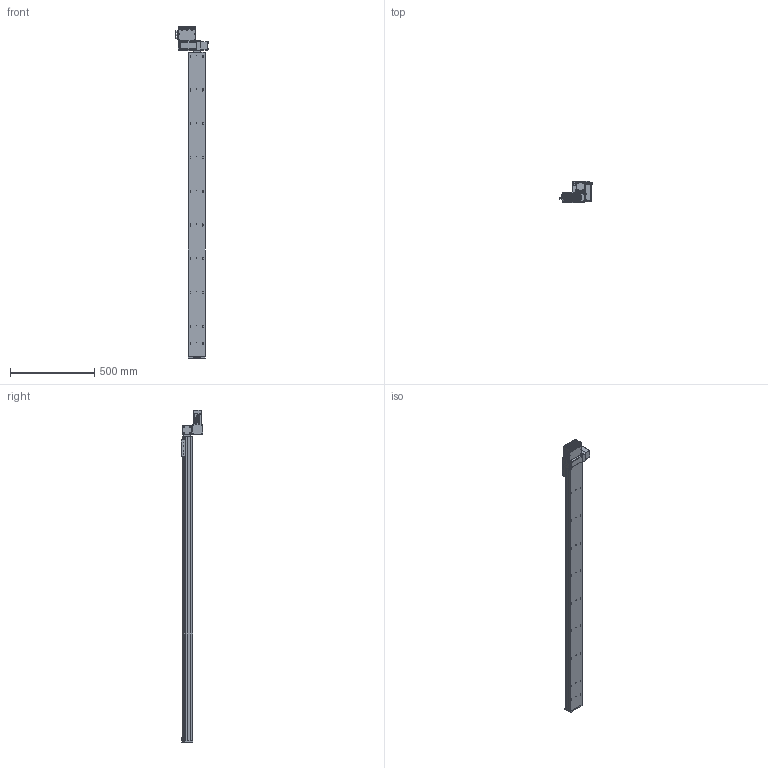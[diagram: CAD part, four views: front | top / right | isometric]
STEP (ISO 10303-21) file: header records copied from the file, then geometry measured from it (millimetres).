
FILE_DESCRIPTION (( 'STEP AP203' ), '1' );
FILE_NAME ('S10 TBH LH S1800.STEP', '2012-06-18T15:57:37', ( 'Conseil Régional Haute-Normandie' ), ( 'Conseil Régional Haute-Normandie' ), 'SwSTEP 2.0', 'SolidWorks 2010', '' );
FILE_SCHEMA (( 'CONFIG_CONTROL_DESIGN' ));
Length unit declared in the file: millimetre
Products named in the file (30): cache t皻e_Default; renvoi LH_Default; Plaque racord_Default; T_X2_00F4_X0_le contre le moteur_5; BU41 Carte Alimentation P05_3; Colonnette_3; Connecteur rond D10 3cts_5; Connecteur rond D12 4cts_5; T_X2_00F4_X0_le lat_X2_00E9_X0_rale_5; axe1800; Vis TF 3 torkx_1_1; S10 TBH LH S1800; cache t皻e axe_Default; Cvis M5 L30_Default; embout; palette tbn; plaque de bout s10_Default; vis M5 L12_Default; Vis M5 L16-2_Default_1; vis M5 L5_Default; Assem1_7; BU45 Carte d''axe A11_5; Moteur 60BLDC90A_3; Couvercle_3; T_X2_00F4_X0_le fond_3; Sub D 9cts 90_X2_00B_X0__3; Radiateur profil_X2_00E9_X0_ 100x25_3; Colonnette ronde_3; T_X2_00F4_X0_le Arri_X2_00E8_X0_re_5; axe 1800
Assembly tree (61 placements, depth 3):
  S10 TBH LH S1800
    cache t皻e_Default  x2
    embout
    vis M5 L12_Default  x4
    axe1800
      axe 1800
    Cvis M5 L30_Default  x2
    Assem1_7
      Moteur 60BLDC90A_3
      Vis TF 3 torkx_1_1  x21
      BU41 Carte Alimentation P05_3
      Connecteur rond D10 3cts_5  x2
      T_X2_00F4_X0_le lat_X2_00E9_X0_rale_5  x2
      Colonnette_3  x2
      BU45 Carte d''axe A11_5
      Couvercle_3
      T_X2_00F4_X0_le Arri_X2_00E8_X0_re_5
      T_X2_00F4_X0_le fond_3
      Colonnette ronde_3
      T_X2_00F4_X0_le contre le moteur_5
      Sub D 9cts 90_X2_00B_X0__3
      Connecteur rond D12 4cts_5
      Radiateur profil_X2_00E9_X0_ 100x25_3
    vis M5 L5_Default  x4
    palette tbn
    Vis M5 L16-2_Default_1  x2
    plaque de bout s10_Default
    cache t皻e axe_Default
    Plaque racord_Default
    renvoi LH_Default
Bounding box: 189.8 x 124.75 x 1966.5 mm (x, y, z)
Volume: 10189431.8 mm3; surface area: 1169127 mm2
Topology: 59 solids, 59 shells, 2299 faces, 5714 edges, 3687 vertices
Faces by surface type: plane 1076, cylinder 1006, cone 178, bspline 36, torus 3
Entity records: 49132 total; most frequent: CARTESIAN_POINT 8838, DIRECTION 7957, ORIENTED_EDGE 7208, EDGE_CURVE 3604, AXIS2_PLACEMENT_3D 2965, VERTEX_POINT 2351, VECTOR 2027, LINE 2027
